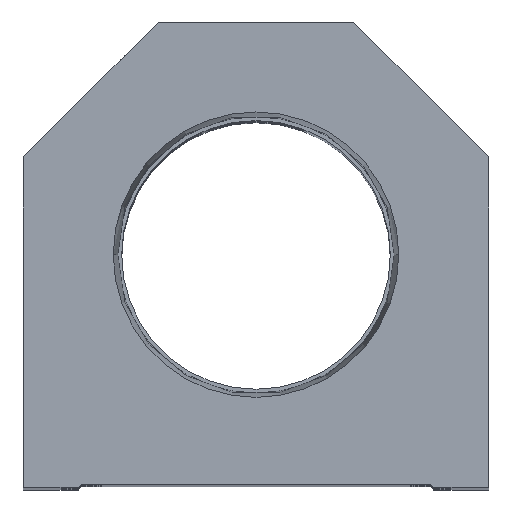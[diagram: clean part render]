
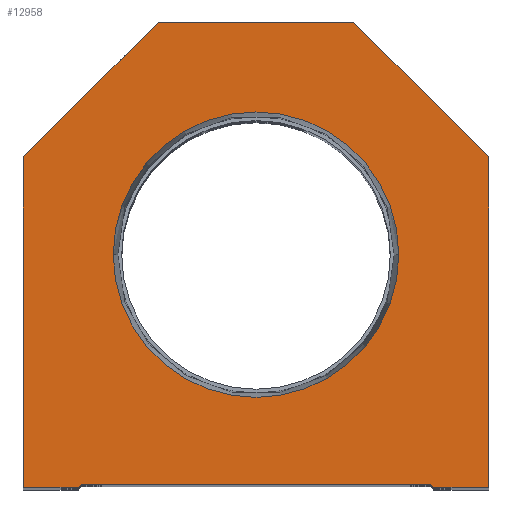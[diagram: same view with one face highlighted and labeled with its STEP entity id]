
A CAD part, top view. The second image highlights one B-rep face of the part: STEP entity #12958.
In plain terms, the highlighted planar face has unit normal (0, 0, 1).
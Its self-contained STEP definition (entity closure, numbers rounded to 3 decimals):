
#111 = EDGE_CURVE ( 'NONE', #14332, #13880, #9766, .T. ) ;
#419 = ORIENTED_EDGE ( 'NONE', *, *, #19994, .F. ) ;
#453 = VECTOR ( 'NONE', #690, 1000. ) ;
#493 = DIRECTION ( 'NONE',  ( 1., 0., 0. ) ) ;
#494 = CARTESIAN_POINT ( 'NONE',  ( -29.1, 0., 0. ) ) ;
#665 = CARTESIAN_POINT ( 'NONE',  ( -28.6, 0., 0. ) ) ;
#690 = DIRECTION ( 'NONE',  ( 0., 1., 0. ) ) ;
#913 = CIRCLE ( 'NONE', #6108, 23.374 ) ;
#1103 = ORIENTED_EDGE ( 'NONE', *, *, #2446, .T. ) ;
#1313 = CARTESIAN_POINT ( 'NONE',  ( 23.374, 38.1, 0. ) ) ;
#1437 = CARTESIAN_POINT ( 'NONE',  ( 28.6, 0., 0. ) ) ;
#2446 = EDGE_CURVE ( 'NONE', #4370, #16557, #9157, .T. ) ;
#2672 = VECTOR ( 'NONE', #15764, 1000. ) ;
#2682 = VERTEX_POINT ( 'NONE', #17897 ) ;
#2893 = EDGE_CURVE ( 'NONE', #5732, #2682, #4107, .T. ) ;
#3176 = EDGE_CURVE ( 'NONE', #6084, #10978, #15466, .T. ) ;
#3450 = CARTESIAN_POINT ( 'NONE',  ( -38.1, 54.1, 0. ) ) ;
#3617 = VECTOR ( 'NONE', #14722, 1000. ) ;
#3642 = CARTESIAN_POINT ( 'NONE',  ( 28.6, 0.5, 0. ) ) ;
#3903 = VERTEX_POINT ( 'NONE', #12216 ) ;
#4107 = LINE ( 'NONE', #1437, #3617 ) ;
#4370 = VERTEX_POINT ( 'NONE', #13689 ) ;
#4678 = VERTEX_POINT ( 'NONE', #3642 ) ;
#4688 = LINE ( 'NONE', #6697, #453 ) ;
#5413 = CARTESIAN_POINT ( 'NONE',  ( 14.55, 14.55, 0. ) ) ;
#5433 = CARTESIAN_POINT ( 'NONE',  ( -28.6, 0.5, 0. ) ) ;
#5520 = VECTOR ( 'NONE', #13475, 1000. ) ;
#5732 = VERTEX_POINT ( 'NONE', #9429 ) ;
#5851 = ORIENTED_EDGE ( 'NONE', *, *, #10626, .T. ) ;
#6084 = VERTEX_POINT ( 'NONE', #13775 ) ;
#6108 = AXIS2_PLACEMENT_3D ( 'NONE', #9468, #15468, #10776 ) ;
#6178 = DIRECTION ( 'NONE',  ( 0., -1., 0. ) ) ;
#6238 = AXIS2_PLACEMENT_3D ( 'NONE', #17146, #6532, #15821 ) ;
#6532 = DIRECTION ( 'NONE',  ( 0., 0., 1. ) ) ;
#6645 = FACE_BOUND ( 'NONE', #10234, .T. ) ;
#6697 = CARTESIAN_POINT ( 'NONE',  ( 38.1, 0., 0. ) ) ;
#6831 = LINE ( 'NONE', #5413, #12394 ) ;
#7527 = DIRECTION ( 'NONE',  ( 0.707, 0.707, 0. ) ) ;
#8210 = ORIENTED_EDGE ( 'NONE', *, *, #2893, .T. ) ;
#8285 = ORIENTED_EDGE ( 'NONE', *, *, #16285, .T. ) ;
#8339 = EDGE_LOOP ( 'NONE', ( #5851, #16914, #14539, #10215, #8210, #19159, #17017, #8285, #1103, #18232 ) ) ;
#8485 = VECTOR ( 'NONE', #17412, 1000. ) ;
#8556 = DIRECTION ( 'NONE',  ( 0.707, -0.707, 0. ) ) ;
#8685 = DIRECTION ( 'NONE',  ( 1., 0., 0. ) ) ;
#9157 = LINE ( 'NONE', #12273, #5520 ) ;
#9327 = EDGE_CURVE ( 'NONE', #11437, #10633, #12096, .T. ) ;
#9429 = CARTESIAN_POINT ( 'NONE',  ( 29.1, 0., 0. ) ) ;
#9468 = CARTESIAN_POINT ( 'NONE',  ( 0., 38.1, 0. ) ) ;
#9766 = CIRCLE ( 'NONE', #13896, 23.374 ) ;
#10194 = VECTOR ( 'NONE', #12542, 1000. ) ;
#10215 = ORIENTED_EDGE ( 'NONE', *, *, #10969, .T. ) ;
#10234 = EDGE_LOOP ( 'NONE', ( #19706, #419 ) ) ;
#10626 = EDGE_CURVE ( 'NONE', #3903, #11437, #19308, .T. ) ;
#10633 = VERTEX_POINT ( 'NONE', #5433 ) ;
#10776 = DIRECTION ( 'NONE',  ( 1., 0., 0. ) ) ;
#10969 = EDGE_CURVE ( 'NONE', #4678, #5732, #6831, .T. ) ;
#10978 = VERTEX_POINT ( 'NONE', #15827 ) ;
#11046 = CARTESIAN_POINT ( 'NONE',  ( 0., 38.1, 0. ) ) ;
#11431 = CARTESIAN_POINT ( 'NONE',  ( -23.374, 38.1, 0. ) ) ;
#11437 = VERTEX_POINT ( 'NONE', #494 ) ;
#11646 = EDGE_CURVE ( 'NONE', #10633, #4678, #12668, .T. ) ;
#11986 = CARTESIAN_POINT ( 'NONE',  ( -14.55, 14.55, 0. ) ) ;
#12096 = LINE ( 'NONE', #11986, #19260 ) ;
#12216 = CARTESIAN_POINT ( 'NONE',  ( -38.1, 0., 0. ) ) ;
#12273 = CARTESIAN_POINT ( 'NONE',  ( -38.1, 54.1, 0. ) ) ;
#12394 = VECTOR ( 'NONE', #8556, 1000. ) ;
#12542 = DIRECTION ( 'NONE',  ( -1., 0., 0. ) ) ;
#12668 = LINE ( 'NONE', #18832, #2672 ) ;
#12958 = ADVANCED_FACE ( 'NONE', ( #6645, #18983 ), #14119, .T. ) ;
#13310 = EDGE_CURVE ( 'NONE', #2682, #6084, #4688, .T. ) ;
#13475 = DIRECTION ( 'NONE',  ( -0.707, -0.707, 0. ) ) ;
#13689 = CARTESIAN_POINT ( 'NONE',  ( -16., 76.2, 0. ) ) ;
#13775 = CARTESIAN_POINT ( 'NONE',  ( 38.1, 54.1, 0. ) ) ;
#13880 = VERTEX_POINT ( 'NONE', #11431 ) ;
#13896 = AXIS2_PLACEMENT_3D ( 'NONE', #11046, #15652, #493 ) ;
#14119 = PLANE ( 'NONE',  #6238 ) ;
#14131 = LINE ( 'NONE', #14217, #10194 ) ;
#14217 = CARTESIAN_POINT ( 'NONE',  ( 16., 76.2, 0. ) ) ;
#14332 = VERTEX_POINT ( 'NONE', #1313 ) ;
#14539 = ORIENTED_EDGE ( 'NONE', *, *, #11646, .T. ) ;
#14722 = DIRECTION ( 'NONE',  ( 1., 0., 0. ) ) ;
#15466 = LINE ( 'NONE', #20049, #8485 ) ;
#15468 = DIRECTION ( 'NONE',  ( 0., 0., 1. ) ) ;
#15652 = DIRECTION ( 'NONE',  ( 0., 0., 1. ) ) ;
#15764 = DIRECTION ( 'NONE',  ( 1., 0., 0. ) ) ;
#15821 = DIRECTION ( 'NONE',  ( 1., 0., 0. ) ) ;
#15827 = CARTESIAN_POINT ( 'NONE',  ( 16., 76.2, 0. ) ) ;
#16285 = EDGE_CURVE ( 'NONE', #10978, #4370, #14131, .T. ) ;
#16557 = VERTEX_POINT ( 'NONE', #3450 ) ;
#16914 = ORIENTED_EDGE ( 'NONE', *, *, #9327, .T. ) ;
#17017 = ORIENTED_EDGE ( 'NONE', *, *, #3176, .T. ) ;
#17146 = CARTESIAN_POINT ( 'NONE',  ( 0., 0., 0. ) ) ;
#17204 = CARTESIAN_POINT ( 'NONE',  ( -38.1, 0., 0. ) ) ;
#17412 = DIRECTION ( 'NONE',  ( -0.707, 0.707, 0. ) ) ;
#17897 = CARTESIAN_POINT ( 'NONE',  ( 38.1, 0., 0. ) ) ;
#18161 = VECTOR ( 'NONE', #8685, 1000. ) ;
#18232 = ORIENTED_EDGE ( 'NONE', *, *, #19301, .T. ) ;
#18344 = LINE ( 'NONE', #17204, #18358 ) ;
#18358 = VECTOR ( 'NONE', #6178, 1000. ) ;
#18832 = CARTESIAN_POINT ( 'NONE',  ( -28.6, 0.5, 0. ) ) ;
#18983 = FACE_OUTER_BOUND ( 'NONE', #8339, .T. ) ;
#19159 = ORIENTED_EDGE ( 'NONE', *, *, #13310, .T. ) ;
#19260 = VECTOR ( 'NONE', #7527, 1000. ) ;
#19301 = EDGE_CURVE ( 'NONE', #16557, #3903, #18344, .T. ) ;
#19308 = LINE ( 'NONE', #665, #18161 ) ;
#19706 = ORIENTED_EDGE ( 'NONE', *, *, #111, .F. ) ;
#19994 = EDGE_CURVE ( 'NONE', #13880, #14332, #913, .T. ) ;
#20049 = CARTESIAN_POINT ( 'NONE',  ( 38.1, 54.1, 0. ) ) ;
